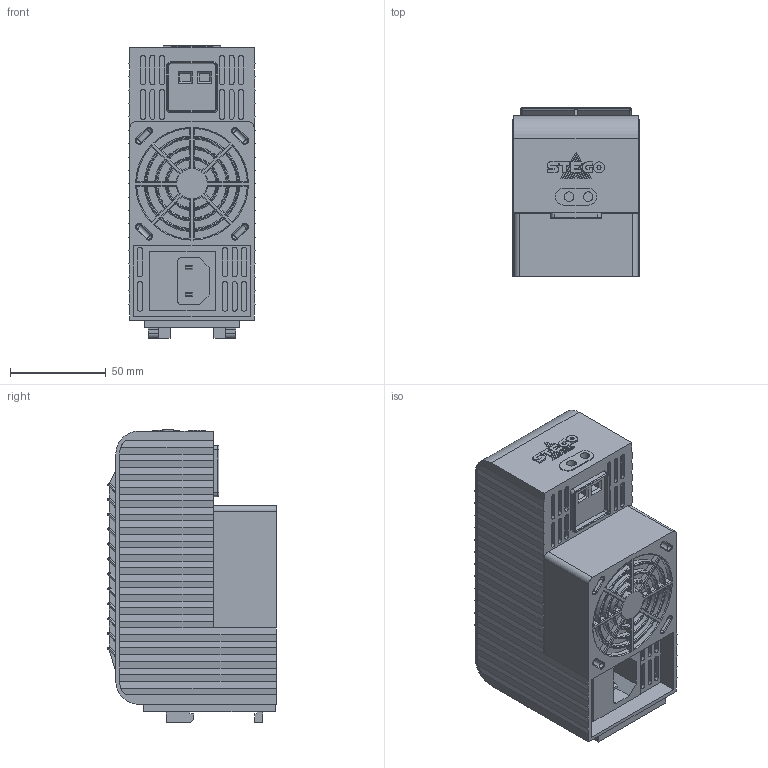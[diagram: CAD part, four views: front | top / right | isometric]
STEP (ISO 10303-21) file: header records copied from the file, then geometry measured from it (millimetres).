
FILE_DESCRIPTION (( 'STEP AP214' ), '1' );
FILE_NAME ('CS03209.0-00_eplan_08_2013.STEP', '2013-08-23T09:40:16', ( 'Nutzer' ), ( '' ), 'SwSTEP 2.0', 'SolidWorks 2013', '' );
FILE_SCHEMA (( 'AUTOMOTIVE_DESIGN' ));
Length unit declared in the file: millimetre
Products named in the file (1): CS03209.0-00_eplan_08_2013
Bounding box: 66 x 88.19 x 153.35 mm (x, y, z)
Volume: 676030.6 mm3; surface area: 74253.6 mm2
Topology: 1 solids, 1 shells, 1168 faces, 2920 edges, 1802 vertices
Faces by surface type: plane 676, cylinder 319, torus 84, sphere 68, bspline 21
Entity records: 34471 total; most frequent: CARTESIAN_POINT 7143, ORIENTED_EDGE 5712, DIRECTION 5547, EDGE_CURVE 2856, LINE 1999, VECTOR 1999, AXIS2_PLACEMENT_3D 1774, VERTEX_POINT 1770
